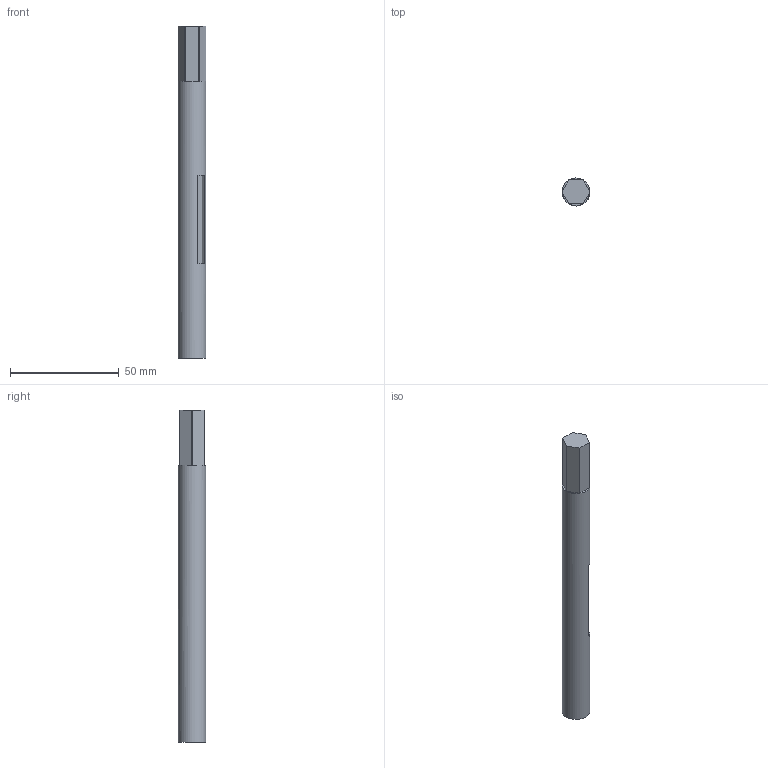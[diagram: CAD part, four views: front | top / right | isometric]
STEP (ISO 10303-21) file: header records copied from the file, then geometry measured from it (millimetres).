
FILE_DESCRIPTION(/* description */ (''),/* implementation_level */ '2;1');
FILE_NAME(/* name */ 'F:\Google Drive\Research\3d Printer Research\Feedstock Grinder\Ginder Parts\0.5in shaft.step',/* time_stamp */ '2016-08-18T22:23:19-07:00',/* author */ ('Brenton'),/* organization */ (''),/* preprocessor_version */ 'ST-DEVELOPER v15.6',/* originating_system */ 'Autodesk Inventor 2015',/* authorisation */ '');
FILE_SCHEMA (('AUTOMOTIVE_DESIGN { 1 0 10303 214 3 1 1 }'));
Length unit declared in the file: inch
Products named in the file (1): 0.5in shaft
Bounding box: 12.7 x 12.7 x 152.4 mm (x, y, z)
Volume: 18371.7 mm3; surface area: 6465 mm2
Topology: 1 solids, 1 shells, 20 faces, 51 edges, 34 vertices
Faces by surface type: plane 19, cylinder 1
Full cylindrical faces by diameter (mm): 12.7 x1
Entity records: 622 total; most frequent: DIRECTION 106, CARTESIAN_POINT 103, ORIENTED_EDGE 98, EDGE_CURVE 49, AXIS2_PLACEMENT_3D 36, LINE 34, VECTOR 34, VERTEX_POINT 33
